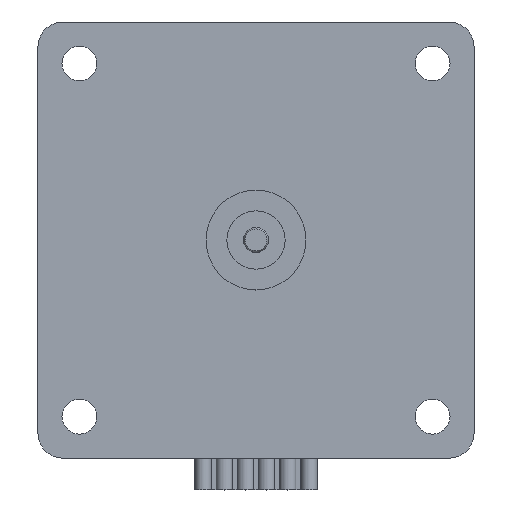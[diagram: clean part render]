
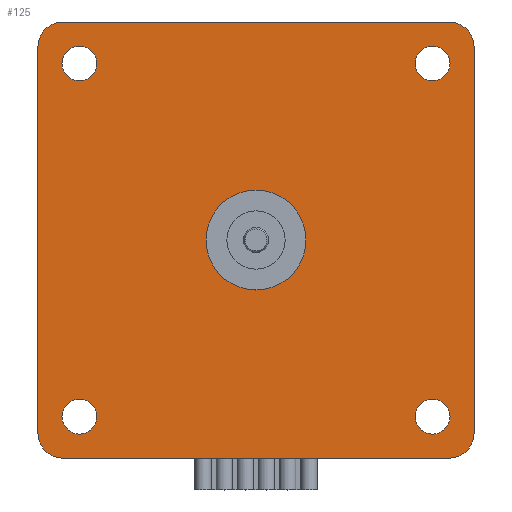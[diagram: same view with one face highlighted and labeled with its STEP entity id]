
A CAD part, top view. The second image highlights one B-rep face of the part: STEP entity #125.
In plain terms, the highlighted planar face has unit normal (0, 0, 1).
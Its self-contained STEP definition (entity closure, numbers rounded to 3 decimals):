
#41=FACE_BOUND('',#256,.T.);
#42=FACE_BOUND('',#257,.T.);
#43=FACE_BOUND('',#258,.T.);
#44=FACE_BOUND('',#259,.T.);
#45=FACE_BOUND('',#260,.T.);
#46=FACE_BOUND('',#261,.T.);
#84=PLANE('',#1090);
#125=ADVANCED_FACE('',(#41,#42,#43,#44,#45,#46),#84,.T.);
#256=EDGE_LOOP('',(#486));
#257=EDGE_LOOP('',(#487));
#258=EDGE_LOOP('',(#488));
#259=EDGE_LOOP('',(#489));
#260=EDGE_LOOP('',(#490));
#261=EDGE_LOOP('',(#491,#492,#493,#494,#495,#496,#497,#498));
#358=CIRCLE('',#1081,1.05);
#359=CIRCLE('',#1082,1.05);
#360=CIRCLE('',#1083,1.05);
#361=CIRCLE('',#1084,1.05);
#362=CIRCLE('',#1085,3.);
#363=CIRCLE('',#1086,1.5);
#364=CIRCLE('',#1087,1.5);
#365=CIRCLE('',#1088,1.5);
#366=CIRCLE('',#1089,1.5);
#486=ORIENTED_EDGE('',*,*,#834,.T.);
#487=ORIENTED_EDGE('',*,*,#835,.T.);
#488=ORIENTED_EDGE('',*,*,#836,.T.);
#489=ORIENTED_EDGE('',*,*,#837,.T.);
#490=ORIENTED_EDGE('',*,*,#838,.F.);
#491=ORIENTED_EDGE('',*,*,#839,.T.);
#492=ORIENTED_EDGE('',*,*,#840,.T.);
#493=ORIENTED_EDGE('',*,*,#841,.T.);
#494=ORIENTED_EDGE('',*,*,#842,.T.);
#495=ORIENTED_EDGE('',*,*,#843,.T.);
#496=ORIENTED_EDGE('',*,*,#844,.T.);
#497=ORIENTED_EDGE('',*,*,#845,.T.);
#498=ORIENTED_EDGE('',*,*,#846,.T.);
#721=VERTEX_POINT('',#1633);
#722=VERTEX_POINT('',#1635);
#723=VERTEX_POINT('',#1637);
#724=VERTEX_POINT('',#1639);
#725=VERTEX_POINT('',#1641);
#726=VERTEX_POINT('',#1643);
#727=VERTEX_POINT('',#1644);
#728=VERTEX_POINT('',#1646);
#729=VERTEX_POINT('',#1648);
#730=VERTEX_POINT('',#1650);
#731=VERTEX_POINT('',#1652);
#732=VERTEX_POINT('',#1654);
#733=VERTEX_POINT('',#1656);
#834=EDGE_CURVE('',#721,#721,#358,.T.);
#835=EDGE_CURVE('',#722,#722,#359,.T.);
#836=EDGE_CURVE('',#723,#723,#360,.T.);
#837=EDGE_CURVE('',#724,#724,#361,.T.);
#838=EDGE_CURVE('',#725,#725,#362,.T.);
#839=EDGE_CURVE('',#726,#727,#935,.T.);
#840=EDGE_CURVE('',#727,#728,#363,.T.);
#841=EDGE_CURVE('',#728,#729,#936,.T.);
#842=EDGE_CURVE('',#729,#730,#364,.T.);
#843=EDGE_CURVE('',#730,#731,#937,.T.);
#844=EDGE_CURVE('',#731,#732,#365,.T.);
#845=EDGE_CURVE('',#732,#733,#938,.T.);
#846=EDGE_CURVE('',#733,#726,#366,.T.);
#935=LINE('',#1642,#1005);
#936=LINE('',#1647,#1006);
#937=LINE('',#1651,#1007);
#938=LINE('',#1655,#1008);
#1005=VECTOR('',#1310,1.);
#1006=VECTOR('',#1313,1.);
#1007=VECTOR('',#1316,1.);
#1008=VECTOR('',#1319,1.);
#1081=AXIS2_PLACEMENT_3D('',#1632,#1300,#1301);
#1082=AXIS2_PLACEMENT_3D('',#1634,#1302,#1303);
#1083=AXIS2_PLACEMENT_3D('',#1636,#1304,#1305);
#1084=AXIS2_PLACEMENT_3D('',#1638,#1306,#1307);
#1085=AXIS2_PLACEMENT_3D('',#1640,#1308,#1309);
#1086=AXIS2_PLACEMENT_3D('',#1645,#1311,#1312);
#1087=AXIS2_PLACEMENT_3D('',#1649,#1314,#1315);
#1088=AXIS2_PLACEMENT_3D('',#1653,#1317,#1318);
#1089=AXIS2_PLACEMENT_3D('',#1657,#1320,#1321);
#1090=AXIS2_PLACEMENT_3D('',#1658,#1322,#1323);
#1300=DIRECTION('',(0.,0.,-1.));
#1301=DIRECTION('',(-1.,0.,0.));
#1302=DIRECTION('',(0.,0.,-1.));
#1303=DIRECTION('',(-1.,0.,0.));
#1304=DIRECTION('',(0.,0.,-1.));
#1305=DIRECTION('',(-1.,0.,0.));
#1306=DIRECTION('',(0.,0.,-1.));
#1307=DIRECTION('',(-1.,0.,0.));
#1308=DIRECTION('',(0.,0.,1.));
#1309=DIRECTION('',(1.,0.,0.));
#1310=DIRECTION('',(0.,1.,0.));
#1311=DIRECTION('',(0.,0.,1.));
#1312=DIRECTION('',(1.,0.,0.));
#1313=DIRECTION('',(-1.,0.,0.));
#1314=DIRECTION('',(0.,0.,1.));
#1315=DIRECTION('',(1.,0.,0.));
#1316=DIRECTION('',(0.,-1.,0.));
#1317=DIRECTION('',(0.,0.,1.));
#1318=DIRECTION('',(1.,0.,0.));
#1319=DIRECTION('',(1.,0.,0.));
#1320=DIRECTION('',(0.,0.,1.));
#1321=DIRECTION('',(1.,0.,0.));
#1322=DIRECTION('',(0.,0.,1.));
#1323=DIRECTION('',(1.,0.,0.));
#1632=CARTESIAN_POINT('',(10.607,10.607,0.));
#1633=CARTESIAN_POINT('',(9.557,10.607,0.));
#1634=CARTESIAN_POINT('',(10.607,-10.607,0.));
#1635=CARTESIAN_POINT('',(9.557,-10.607,0.));
#1636=CARTESIAN_POINT('',(-10.607,-10.607,0.));
#1637=CARTESIAN_POINT('',(-11.657,-10.607,0.));
#1638=CARTESIAN_POINT('',(-10.607,10.607,0.));
#1639=CARTESIAN_POINT('',(-11.657,10.607,0.));
#1640=CARTESIAN_POINT('',(0.,0.,0.));
#1641=CARTESIAN_POINT('',(3.,0.,0.));
#1642=CARTESIAN_POINT('',(13.1,-13.1,0.));
#1643=CARTESIAN_POINT('',(13.1,-11.6,0.));
#1644=CARTESIAN_POINT('',(13.1,11.6,0.));
#1645=CARTESIAN_POINT('',(11.6,11.6,0.));
#1646=CARTESIAN_POINT('',(11.6,13.1,0.));
#1647=CARTESIAN_POINT('',(13.1,13.1,0.));
#1648=CARTESIAN_POINT('',(-11.6,13.1,0.));
#1649=CARTESIAN_POINT('',(-11.6,11.6,0.));
#1650=CARTESIAN_POINT('',(-13.1,11.6,0.));
#1651=CARTESIAN_POINT('',(-13.1,13.1,0.));
#1652=CARTESIAN_POINT('',(-13.1,-11.6,0.));
#1653=CARTESIAN_POINT('',(-11.6,-11.6,0.));
#1654=CARTESIAN_POINT('',(-11.6,-13.1,0.));
#1655=CARTESIAN_POINT('',(-13.1,-13.1,0.));
#1656=CARTESIAN_POINT('',(11.6,-13.1,0.));
#1657=CARTESIAN_POINT('',(11.6,-11.6,0.));
#1658=CARTESIAN_POINT('',(0.,0.,0.));
